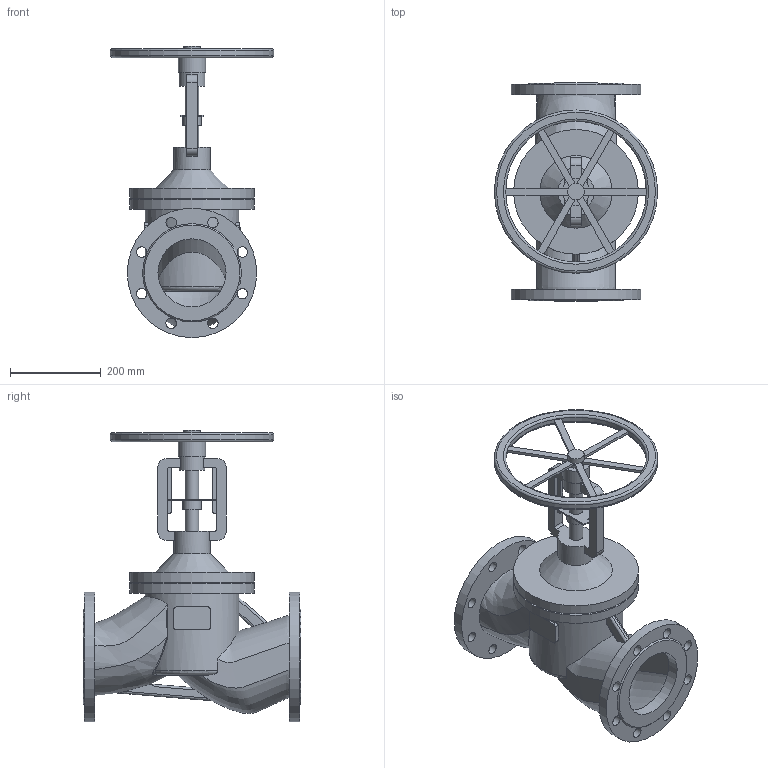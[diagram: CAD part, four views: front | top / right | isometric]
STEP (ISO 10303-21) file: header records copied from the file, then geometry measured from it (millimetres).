
FILE_DESCRIPTION(('STEP AP203'), '1');
FILE_NAME('Êëàïàí çàïîðíî-ðåãóëèðóþùèé BV2F DN150', '2026-09-22T07:52:17', ('Ýíåðãèÿ'), (''), 'ASCON STEP Converter 1.6', 'ASCON Math Kernel', '');
FILE_SCHEMA(('CONFIG_CONTROL_DESIGN'));
Length unit declared in the file: millimetre
Bounding box: 360 x 480 x 641.5 mm (x, y, z)
Volume: 14686657.9 mm3; surface area: 1100908.4 mm2
Topology: 1 solids, 1 shells, 224 faces, 622 edges, 408 vertices
Faces by surface type: plane 117, cylinder 77, bspline 20, torus 7, cone 3
Full cylindrical faces by diameter (mm): 23 x16, 30 x2, 36 x1, 40 x1, 56 x1, 60 x1, 80 x1, 150 x1, 207 x1, 265 x1, 275 x2, 285 x2, 310 x1, 360 x1
Entity records: 23248 total; most frequent: CARTESIAN_POINT 15891, ORIENTED_EDGE 1158, DIRECTION 1054, EDGE_CURVE 579, AXIS2_PLACEMENT_3D 410, VERTEX_POINT 407, EDGE_LOOP 336, FACE_BOUND 275
